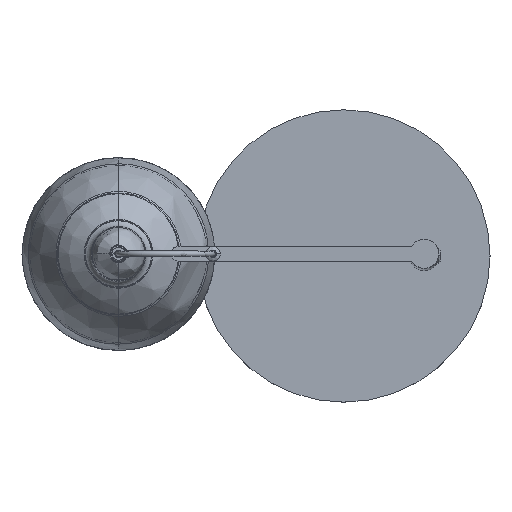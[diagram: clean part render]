
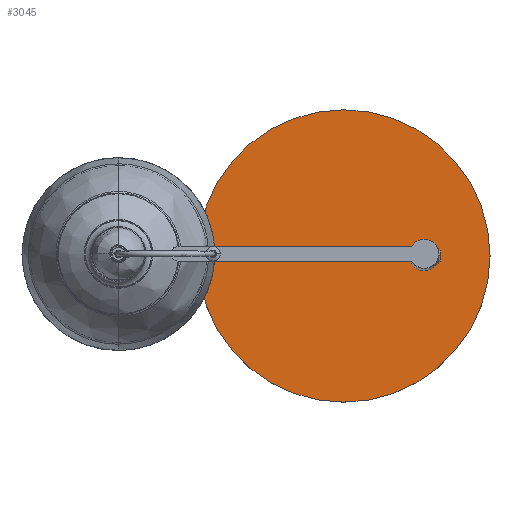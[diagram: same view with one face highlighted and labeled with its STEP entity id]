
A CAD part, top view. The second image highlights one B-rep face of the part: STEP entity #3045.
In plain terms, the highlighted planar face has unit normal (0, 0, 1).
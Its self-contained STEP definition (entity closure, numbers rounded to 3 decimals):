
#25=FACE_BOUND('',#890,.T.);
#134=PLANE('',#3251);
#207=CIRCLE('',#3245,150.);
#209=CIRCLE('',#3248,150.);
#211=CIRCLE('',#3252,15.);
#212=CIRCLE('',#3253,15.);
#685=FACE_OUTER_BOUND('',#889,.T.);
#889=EDGE_LOOP('',(#2600,#2601));
#890=EDGE_LOOP('',(#2602,#2603));
#1393=VERTEX_POINT('',#9176);
#1394=VERTEX_POINT('',#9177);
#1397=VERTEX_POINT('',#9189);
#1398=VERTEX_POINT('',#9190);
#1797=EDGE_CURVE('',#1393,#1394,#207,.T.);
#1801=EDGE_CURVE('',#1394,#1393,#209,.T.);
#1803=EDGE_CURVE('',#1397,#1398,#211,.T.);
#1804=EDGE_CURVE('',#1398,#1397,#212,.T.);
#2600=ORIENTED_EDGE('',*,*,#1801,.T.);
#2601=ORIENTED_EDGE('',*,*,#1797,.T.);
#2602=ORIENTED_EDGE('',*,*,#1803,.F.);
#2603=ORIENTED_EDGE('',*,*,#1804,.F.);
#3045=ADVANCED_FACE('',(#685,#25),#134,.T.);
#3245=AXIS2_PLACEMENT_3D('',#9178,#3676,#3677);
#3248=AXIS2_PLACEMENT_3D('',#9185,#3684,#3685);
#3251=AXIS2_PLACEMENT_3D('',#9188,#3690,#3691);
#3252=AXIS2_PLACEMENT_3D('',#9191,#3692,#3693);
#3253=AXIS2_PLACEMENT_3D('',#9192,#3694,#3695);
#3676=DIRECTION('center_axis',(0.,0.,1.));
#3677=DIRECTION('ref_axis',(1.,0.,0.));
#3684=DIRECTION('center_axis',(0.,0.,1.));
#3685=DIRECTION('ref_axis',(1.,0.,0.));
#3690=DIRECTION('center_axis',(0.,0.,1.));
#3691=DIRECTION('ref_axis',(0.,1.,0.));
#3692=DIRECTION('center_axis',(0.,0.,1.));
#3693=DIRECTION('ref_axis',(1.,0.,0.));
#3694=DIRECTION('center_axis',(0.,0.,1.));
#3695=DIRECTION('ref_axis',(1.,0.,0.));
#9176=CARTESIAN_POINT('',(150.,0.,22.));
#9177=CARTESIAN_POINT('',(-150.,0.,22.));
#9178=CARTESIAN_POINT('Origin',(0.,0.,22.));
#9185=CARTESIAN_POINT('Origin',(0.,0.,22.));
#9188=CARTESIAN_POINT('Origin',(150.,0.,22.));
#9189=CARTESIAN_POINT('',(67.496,0.,22.));
#9190=CARTESIAN_POINT('',(97.496,0.,22.));
#9191=CARTESIAN_POINT('Origin',(82.496,0.,22.));
#9192=CARTESIAN_POINT('Origin',(82.496,0.,22.));
